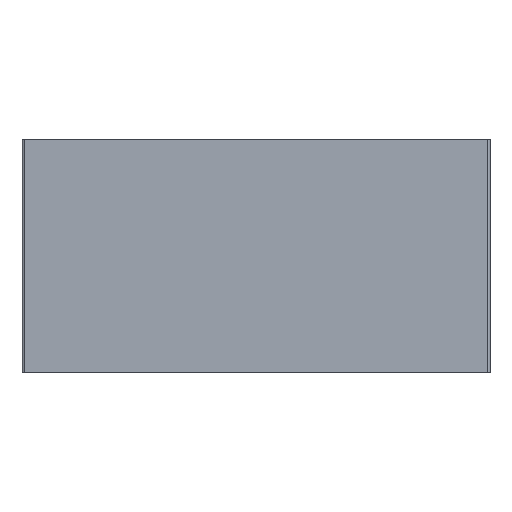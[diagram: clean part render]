
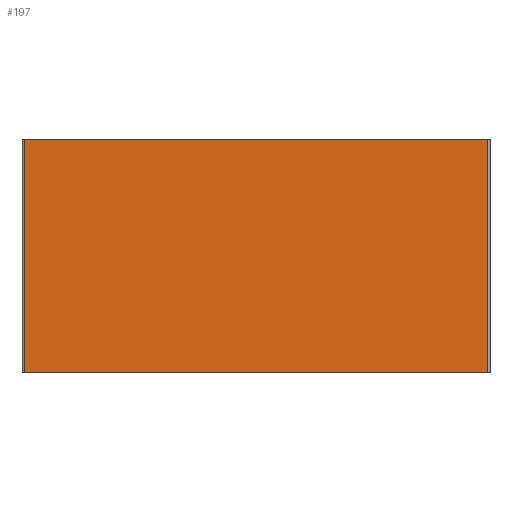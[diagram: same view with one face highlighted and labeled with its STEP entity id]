
A CAD part, front view. The second image highlights one B-rep face of the part: STEP entity #197.
In plain terms, the highlighted planar face has unit normal (0, -1, 0).
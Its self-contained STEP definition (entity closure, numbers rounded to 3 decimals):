
#67 = EDGE_CURVE ( 'NONE', #282, #397, #1502, .T. ) ;
#100 = ORIENTED_EDGE ( 'NONE', *, *, #67, .T. ) ;
#187 = EDGE_LOOP ( 'NONE', ( #100, #4107, #4055, #3434 ) ) ;
#197 = ADVANCED_FACE ( 'NONE', ( #2297 ), #2298, .F. ) ;
#282 = VERTEX_POINT ( 'NONE', #2882 ) ;
#397 = VERTEX_POINT ( 'NONE', #3667 ) ;
#793 = EDGE_CURVE ( 'NONE', #926, #282, #2699, .T. ) ;
#926 = VERTEX_POINT ( 'NONE', #3169 ) ;
#1502 = LINE ( 'NONE', #1503, #1504 ) ;
#1503 = CARTESIAN_POINT ( 'NONE',  ( -24.248, -75.709, 0. ) ) ;
#1504 = VECTOR ( 'NONE', #1505, 1000. ) ;
#1505 = DIRECTION ( 'NONE',  ( 1., 0., 0. ) ) ;
#2297 = FACE_OUTER_BOUND ( 'NONE', #187, .T. ) ;
#2298 = PLANE ( 'NONE',  #2299 ) ;
#2299 = AXIS2_PLACEMENT_3D ( 'NONE', #2300, #2301, #2302 ) ;
#2300 = CARTESIAN_POINT ( 'NONE',  ( -24.248, -75.709, 50. ) ) ;
#2301 = DIRECTION ( 'NONE',  ( 0., 1., 0. ) ) ;
#2302 = DIRECTION ( 'NONE',  ( 0., 0., 1. ) ) ;
#2699 = LINE ( 'NONE', #2700, #2701 ) ;
#2700 = CARTESIAN_POINT ( 'NONE',  ( -123.248, -75.709, 50. ) ) ;
#2701 = VECTOR ( 'NONE', #2702, 1000. ) ;
#2702 = DIRECTION ( 'NONE',  ( 0., 0., -1. ) ) ;
#2882 = CARTESIAN_POINT ( 'NONE',  ( -123.248, -75.709, 0. ) ) ;
#3169 = CARTESIAN_POINT ( 'NONE',  ( -123.248, -75.709, 50. ) ) ;
#3434 = ORIENTED_EDGE ( 'NONE', *, *, #793, .T. ) ;
#3667 = CARTESIAN_POINT ( 'NONE',  ( -24.248, -75.709, 0. ) ) ;
#3762 = EDGE_CURVE ( 'NONE', #926, #3950, #3774, .T. ) ;
#3774 = LINE ( 'NONE', #3775, #3776 ) ;
#3775 = CARTESIAN_POINT ( 'NONE',  ( -24.248, -75.709, 50. ) ) ;
#3776 = VECTOR ( 'NONE', #3777, 1000. ) ;
#3777 = DIRECTION ( 'NONE',  ( 1., 0., 0. ) ) ;
#3806 = CARTESIAN_POINT ( 'NONE',  ( -24.248, -75.709, 50. ) ) ;
#3887 = LINE ( 'NONE', #3888, #3889 ) ;
#3888 = CARTESIAN_POINT ( 'NONE',  ( -24.248, -75.709, 50. ) ) ;
#3889 = VECTOR ( 'NONE', #3890, 1000. ) ;
#3890 = DIRECTION ( 'NONE',  ( 0., 0., -1. ) ) ;
#3950 = VERTEX_POINT ( 'NONE', #3806 ) ;
#4055 = ORIENTED_EDGE ( 'NONE', *, *, #3762, .F. ) ;
#4086 = EDGE_CURVE ( 'NONE', #3950, #397, #3887, .T. ) ;
#4107 = ORIENTED_EDGE ( 'NONE', *, *, #4086, .F. ) ;
